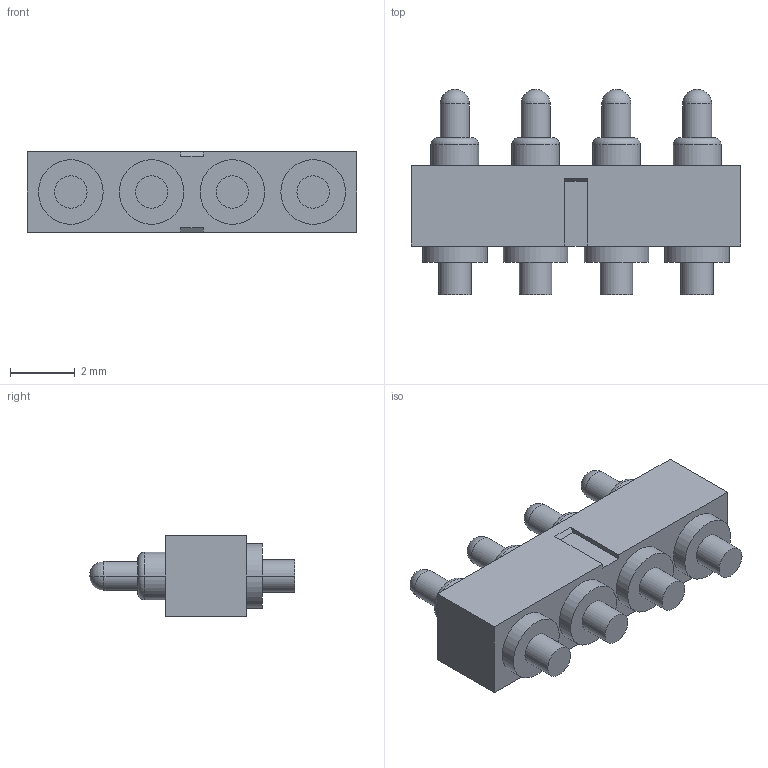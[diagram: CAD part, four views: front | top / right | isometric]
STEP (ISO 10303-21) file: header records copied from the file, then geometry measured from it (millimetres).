
FILE_DESCRIPTION((''),'2;1');
FILE_NAME('HOUSING_2','2022-05-18T08:33:01',('Administrator'),(''),'CREO PARAMETRIC BY PTC INC, 2018400','CREO PARAMETRIC BY PTC INC, 2018400','');
FILE_SCHEMA(('CONFIG_CONTROL_DESIGN'));
Length unit declared in the file: millimetre
Products named in the file (1): HOUSING_2
Bounding box: 10.2 x 6.35 x 2.5 mm (x, y, z)
Volume: 81.4 mm3; surface area: 262.9 mm2
Topology: 1 solids, 1 shells, 86 faces, 188 edges, 116 vertices
Faces by surface type: cylinder 40, plane 30, torus 8, sphere 8
Entity records: 2370 total; most frequent: DIRECTION 456, CARTESIAN_POINT 382, ORIENTED_EDGE 360, AXIS2_PLACEMENT_3D 190, EDGE_CURVE 180, VERTEX_POINT 116, EDGE_LOOP 106, CIRCLE 104
